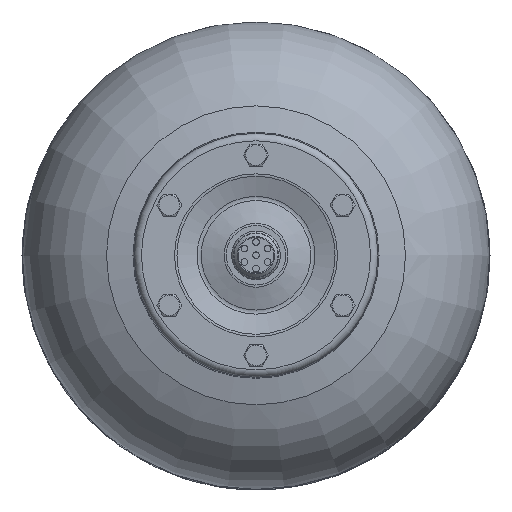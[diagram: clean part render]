
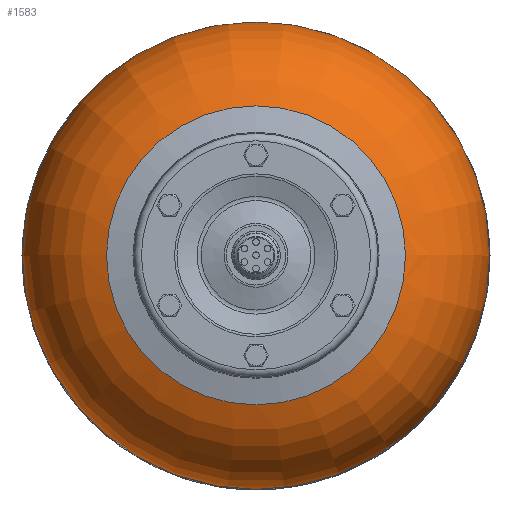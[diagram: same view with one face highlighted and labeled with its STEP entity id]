
A CAD part, top view. The second image highlights one B-rep face of the part: STEP entity #1583.
In plain terms, the highlighted toroidal (fillet/blend) face has major radius 70 mm and minor radius 70 mm.
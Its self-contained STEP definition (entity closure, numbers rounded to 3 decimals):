
#1583=ADVANCED_FACE('',(#3046,#3048),#3050,.T.);
#3046=FACE_BOUND('',#3047,.T.);
#3047=EDGE_LOOP('',(#3815,#3816));
#3048=FACE_BOUND('',#3049,.T.);
#3049=EDGE_LOOP('',(#3817,#3818));
#3050=DEGENERATE_TOROIDAL_SURFACE('',#3051,70.,70.,.T.);
#3051=AXIS2_PLACEMENT_3D('',#3052,#3053,#3054);
#3052=CARTESIAN_POINT('',(0.,0.,143.349));
#3053=DIRECTION('',(0.,0.,1.));
#3054=DIRECTION('',(1.,0.,0.));
#3815=ORIENTED_EDGE('',*,*,#3925,.T.);
#3816=ORIENTED_EDGE('',*,*,#3924,.T.);
#3817=ORIENTED_EDGE('',*,*,#4199,.F.);
#3818=ORIENTED_EDGE('',*,*,#4200,.F.);
#3924=EDGE_CURVE('',#4367,#4368,#4369,.T.);
#3925=EDGE_CURVE('',#4368,#4367,#4370,.T.);
#4199=EDGE_CURVE('',#4881,#4882,#4883,.T.);
#4200=EDGE_CURVE('',#4882,#4881,#4884,.T.);
#4367=VERTEX_POINT('',#5762);
#4368=VERTEX_POINT('',#5763);
#4369=CIRCLE('',#5764,140.);
#4370=CIRCLE('',#5768,140.);
#4881=VERTEX_POINT('',#8427);
#4882=VERTEX_POINT('',#8428);
#4883=CIRCLE('',#8429,89.6);
#4884=CIRCLE('',#8433,89.6);
#5762=CARTESIAN_POINT('',(-140.,0.,143.349));
#5763=CARTESIAN_POINT('',(140.,0.,143.349));
#5764=AXIS2_PLACEMENT_3D('',#5765,#5766,#5767);
#5765=CARTESIAN_POINT('',(0.,0.,143.349));
#5766=DIRECTION('',(0.,0.,1.));
#5767=DIRECTION('',(-1.,0.,0.));
#5768=AXIS2_PLACEMENT_3D('',#5769,#5770,#5771);
#5769=CARTESIAN_POINT('',(0.,0.,143.349));
#5770=DIRECTION('',(0.,0.,1.));
#5771=DIRECTION('',(1.,0.,0.));
#8427=CARTESIAN_POINT('',(-89.6,0.,210.549));
#8428=CARTESIAN_POINT('',(89.6,0.,210.549));
#8429=AXIS2_PLACEMENT_3D('',#8430,#8431,#8432);
#8430=CARTESIAN_POINT('',(0.,0.,210.549));
#8431=DIRECTION('',(0.,0.,1.));
#8432=DIRECTION('',(-1.,0.,0.));
#8433=AXIS2_PLACEMENT_3D('',#8434,#8435,#8436);
#8434=CARTESIAN_POINT('',(0.,0.,210.549));
#8435=DIRECTION('',(0.,0.,1.));
#8436=DIRECTION('',(1.,0.,0.));
